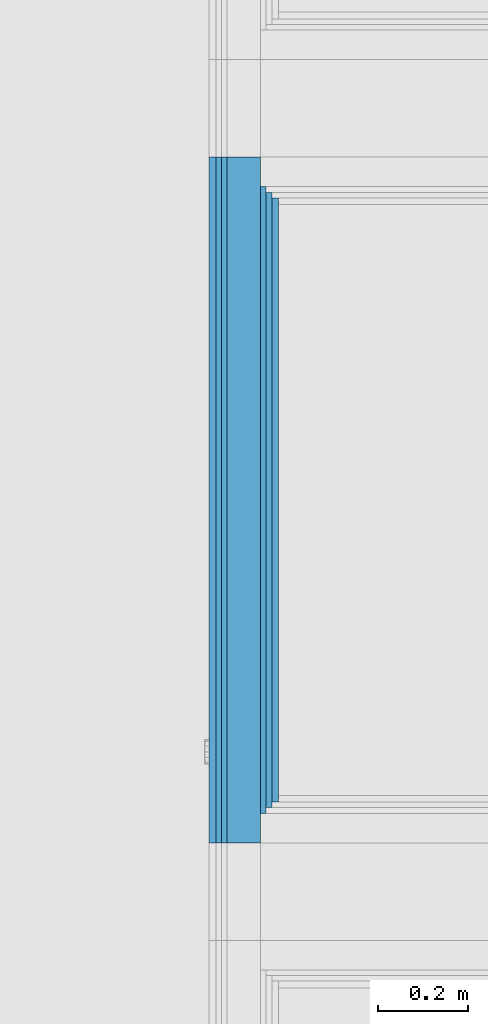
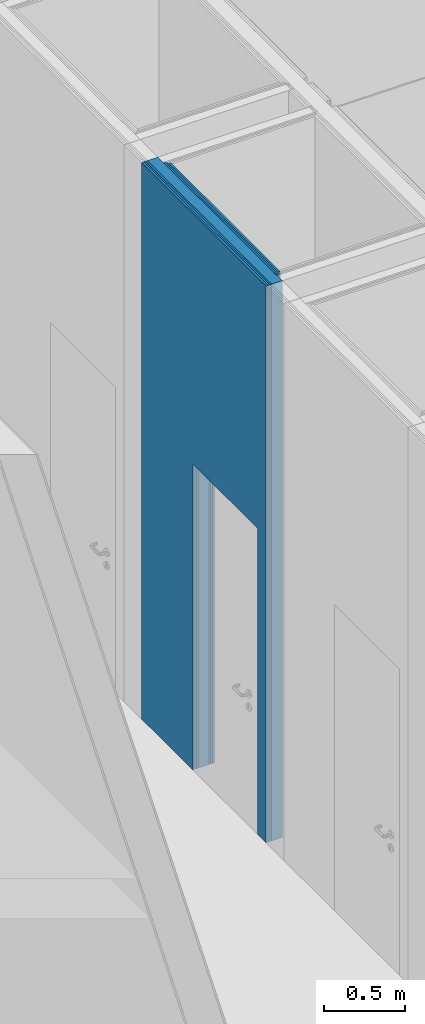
# One storey, part 63 of 260: 7 building element parts, 1 opening, 1 element without a shape of its own.
"""IFC2X3 building model written with IfcOpenShell, lengths in millimetres."""

from ifc_helpers import new_model, entity, si_unit, converted_unit, derived_unit, money_unit, direction, frame, origin_with_axes, place, context, subcontext, project, spatial, faceted_brep, material, type_object, element, aggregate, save


model = new_model("IFC2X3")

# Units and contexts
model_context = context("Model", 3, precision=0.01, world=origin_with_axes(), true_north=direction((0.0, 1.0)))
body_context = subcontext(model_context, "Body", "Model", "MODEL_VIEW")
ifc_project = project(units=[si_unit("LENGTHUNIT", "METRE", prefix="MILLI"), si_unit("AREAUNIT", "SQUARE_METRE"), si_unit("VOLUMEUNIT", "CUBIC_METRE"), converted_unit("PLANEANGLEUNIT", "DEGREE", entity("IfcPlaneAngleMeasure", 0.0174532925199), si_unit("PLANEANGLEUNIT", "RADIAN"), dimensions=[0, 0, 0, 0, 0, 0, 0]), money_unit("EUR"), converted_unit("TIMEUNIT", "Year", entity("IfcTimeMeasure", 31556926.0), si_unit("TIMEUNIT", "SECOND"), dimensions=[0, 0, 1, 0, 0, 0, 0]), si_unit("MASSUNIT", "GRAM", prefix="KILO"), si_unit("THERMODYNAMICTEMPERATUREUNIT", "DEGREE_CELSIUS"), si_unit("LUMINOUSINTENSITYUNIT", "LUMEN"), si_unit("ENERGYUNIT", "JOULE", prefix="MEGA"), derived_unit("THERMALCONDUCTANCEUNIT", [(si_unit("POWERUNIT", "WATT"), 1), (si_unit("LENGTHUNIT", "METRE"), -1), (si_unit("THERMODYNAMICTEMPERATUREUNIT", "KELVIN"), -1)]), derived_unit("SPECIFICHEATCAPACITYUNIT", [(si_unit("ENERGYUNIT", "JOULE"), 1), (si_unit("MASSUNIT", "GRAM", prefix="KILO"), -1), (si_unit("THERMODYNAMICTEMPERATUREUNIT", "KELVIN"), -1)]), derived_unit("MASSDENSITYUNIT", [(si_unit("MASSUNIT", "GRAM", prefix="KILO"), 1), (si_unit("VOLUMEUNIT", "CUBIC_METRE"), -1)])], contexts=[model_context])

# Site, building, storey
site_placement = place(None, origin_with_axes())
site = spatial("IfcSite", under=ifc_project, at=site_placement, Name="Kolde pst 67a", CompositionType="ELEMENT")
building_placement = place(site_placement, origin_with_axes())
building = spatial("IfcBuilding", under=site, at=building_placement, Name="Riigigümnaasium", CompositionType="ELEMENT")
storey_placement = place(building_placement, origin_with_axes())
storey = spatial("IfcBuildingStorey", under=building, at=storey_placement, Name="1. korrus", CompositionType="ELEMENT", Elevation=0.0)

# Wall, opening, building element parts
wall_type = type_object("IfcWallType", Name="SS-MK-7,5/1_plaaditud 155", PredefinedType="NOTDEFINED")
wall_placement = place(storey_placement, frame((66260.8875355, 20493.9999697, 0.0), z_axis=(0.0, 0.0, 1.0), x_axis=(0.0, 1.0, 0.0)))
wall = element("IfcWall", 1, at=wall_placement, inside=storey, type_object=wall_type, Name="Sisesein")
opening_placement = place(wall_placement, frame((503.500001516, 0.0, 0.0), z_axis=(0.0, 0.0, 1.0), x_axis=(1.0, 0.0, 0.0)))
element("IfcOpeningElement", 2, at=opening_placement, cuts=wall, Name="Siseuks", context=body_context, shape_type="Brep", body=[
    faceted_brep([(400.0, -155.0, 2300.0), (400.0, -155.0, 0.0), (400.0, 310.0, 0.0), (400.0, 310.0, 2300.0), (-400.0, -155.0, 2300.0), (-400.0, -155.0, 0.0), (-400.0, 310.0, 0.0), (-400.0, 310.0, 2300.0)], [[[0, 1, 2, 3]], [[0, 4, 5, 1]], [[1, 5, 6, 2]], [[3, 2, 6, 7]], [[4, 0, 3, 7]], [[5, 4, 7, 6]]]),
])
ifc_material_1 = material(Name="_VIIMISTLUSKIHT - viimistlus vastavalt SA osale")
building_element_part_1_placement = place(wall_placement, origin_with_axes())
building_element_part_1 = element("IfcBuildingElementPart", 3, at=building_element_part_1_placement, material=ifc_material_1, Name="_VIIMISTLUSKIHT - viimistlus vastavalt SA osale", context=body_context, shape_type="Brep", body=[
    faceted_brep([(103.500001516, -15.0, 0.0), (103.500001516, -15.0, 2300.0), (903.500001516, -15.0, 2300.0), (903.500001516, -15.0, 0.0), (1532.07688057, -15.0, 0.0), (1532.07688057, -15.0, 4185.0), (0.0, -15.0, 4185.0), (0.0, -15.0, 0.0), (103.500001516, 0.0, 0.0), (103.500001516, 0.0, 2300.0), (903.500001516, 0.0, 2300.0), (903.500001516, 0.0, 0.0), (1532.07688057, 0.0, 0.0), (1532.07688057, 0.0, 4185.0), (0.0, 0.0, 4185.0), (0.0, 0.0, 0.0)], [[[0, 1, 2, 3, 4, 5, 6, 7]], [[1, 0, 8, 9]], [[2, 1, 9, 10]], [[3, 2, 10, 11]], [[3, 11, 12, 4]], [[5, 4, 12, 13]], [[5, 13, 14, 6]], [[14, 15, 7, 6]], [[8, 0, 7, 15]], [[9, 8, 15, 14, 13, 12, 11, 10]]]),
])
ifc_material_2 = material(Name="_PLAATMATERJAL - kipsplaat veekindel")
building_element_part_2_placement = place(wall_placement, origin_with_axes())
building_element_part_2 = element("IfcBuildingElementPart", 4, at=building_element_part_2_placement, material=ifc_material_2, Name="_PLAATMATERJAL - kipsplaat veekindel", context=body_context, shape_type="Brep", body=[
    faceted_brep([(103.500001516, -27.5, 0.0), (103.500001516, -27.5, 2300.0), (903.500001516, -27.5, 2300.0), (903.500001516, -27.5, 0.0), (1532.07688057, -27.5, 0.0), (1532.07688057, -27.5, 4185.0), (0.0, -27.5, 4185.0), (0.0, -27.5, 0.0), (103.500001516, -15.0, 0.0), (103.500001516, -15.0, 2300.0), (903.500001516, -15.0, 2300.0), (903.500001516, -15.0, 0.0), (1532.07688057, -15.0, 0.0), (1532.07688057, -15.0, 4185.0), (0.0, -15.0, 4185.0), (0.0, -15.0, 0.0)], [[[0, 1, 2, 3, 4, 5, 6, 7]], [[1, 0, 8, 9]], [[2, 1, 9, 10]], [[3, 2, 10, 11]], [[3, 11, 12, 4]], [[5, 4, 12, 13]], [[5, 13, 14, 6]], [[14, 15, 7, 6]], [[8, 0, 7, 15]], [[9, 8, 15, 14, 13, 12, 11, 10]]]),
])
building_element_part_3_placement = place(wall_placement, origin_with_axes())
building_element_part_3 = element("IfcBuildingElementPart", 5, at=building_element_part_3_placement, material=ifc_material_2, Name="_PLAATMATERJAL - kipsplaat veekindel", context=body_context, shape_type="Brep", body=[
    faceted_brep([(103.500001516, -40.0, 0.0), (103.500001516, -40.0, 2300.0), (903.500001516, -40.0, 2300.0), (903.500001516, -40.0, 0.0), (1532.07688057, -40.0, 0.0), (1532.07688057, -40.0, 4185.0), (0.0, -40.0, 4185.0), (0.0, -40.0, 0.0), (103.500001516, -27.5, 0.0), (103.500001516, -27.5, 2300.0), (903.500001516, -27.5, 2300.0), (903.500001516, -27.5, 0.0), (1532.07688057, -27.5, 0.0), (1532.07688057, -27.5, 4185.0), (0.0, -27.5, 4185.0), (0.0, -27.5, 0.0)], [[[0, 1, 2, 3, 4, 5, 6, 7]], [[1, 0, 8, 9]], [[2, 1, 9, 10]], [[3, 2, 10, 11]], [[3, 11, 12, 4]], [[5, 4, 12, 13]], [[5, 13, 14, 6]], [[14, 15, 7, 6]], [[8, 0, 7, 15]], [[9, 8, 15, 14, 13, 12, 11, 10]]]),
])
ifc_material_3 = material(Name="_KARKASS - metallkarkass CW 75/50, mineraalvill karkassi vahel")
building_element_part_4_placement = place(wall_placement, origin_with_axes())
building_element_part_4 = element("IfcBuildingElementPart", 6, at=building_element_part_4_placement, material=ifc_material_3, Name="_KARKASS - metallkarkass CW 75/50, mineraalvill karkassi vahel", context=body_context, shape_type="Brep", body=[
    faceted_brep([(103.500001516, -115.0, 0.0), (103.500001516, -115.0, 2300.0), (903.500001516, -115.0, 2300.0), (903.500001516, -115.0, 0.0), (1532.07688057, -115.0, 0.0), (1532.07688057, -115.0, 4185.0), (0.0, -115.0, 4185.0), (0.0, -115.0, 0.0), (103.500001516, -40.0, 0.0), (103.500001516, -40.0, 2300.0), (903.500001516, -40.0, 2300.0), (903.500001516, -40.0, 0.0), (1532.07688057, -40.0, 0.0), (1532.07688057, -40.0, 4185.0), (0.0, -40.0, 4185.0), (0.0, -40.0, 0.0)], [[[0, 1, 2, 3, 4, 5, 6, 7]], [[1, 0, 8, 9]], [[2, 1, 9, 10]], [[3, 2, 10, 11]], [[3, 11, 12, 4]], [[5, 4, 12, 13]], [[5, 13, 14, 6]], [[14, 15, 7, 6]], [[8, 0, 7, 15]], [[9, 8, 15, 14, 13, 12, 11, 10]]]),
])
building_element_part_5_placement = place(wall_placement, origin_with_axes())
building_element_part_5 = element("IfcBuildingElementPart", 7, at=building_element_part_5_placement, material=ifc_material_2, Name="_PLAATMATERJAL - kipsplaat veekindel", context=body_context, shape_type="Brep", body=[
    faceted_brep([(103.500001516, -127.5, 0.0), (103.500001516, -127.5, 2300.0), (903.500001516, -127.5, 2300.0), (903.500001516, -127.5, 0.0), (1466.07688966, -127.5, 0.0), (1466.07688966, -127.5, 4185.0), (66.0000000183, -127.5, 4185.0), (66.0000000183, -127.5, 0.0), (103.500001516, -115.0, 0.0), (103.500001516, -115.0, 2300.0), (903.500001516, -115.0, 2300.0), (903.500001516, -115.0, 0.0), (1466.07688057, -115.0, 0.0), (1466.07688057, -115.0, 4185.0), (66.0, -115.0, 4185.0), (66.0, -115.0, 0.0)], [[[0, 1, 2, 3, 4, 5, 6, 7]], [[1, 0, 8, 9]], [[2, 1, 9, 10]], [[3, 2, 10, 11]], [[3, 11, 12, 4]], [[5, 4, 12, 13]], [[5, 13, 14, 6]], [[14, 15, 7, 6]], [[8, 0, 7, 15]], [[9, 8, 15, 14, 13, 12, 11, 10]]]),
])
building_element_part_6_placement = place(wall_placement, origin_with_axes())
building_element_part_6 = element("IfcBuildingElementPart", 8, at=building_element_part_6_placement, material=ifc_material_2, Name="_PLAATMATERJAL - kipsplaat veekindel", context=body_context, shape_type="Brep", body=[
    faceted_brep([(103.500001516, -140.0, 0.0), (103.500001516, -140.0, 2300.0), (903.500001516, -140.0, 2300.0), (903.500001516, -140.0, 0.0), (1453.57689875, -140.0, 0.0), (1453.57689875, -140.0, 4185.0), (78.5000000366, -140.0, 4185.0), (78.5000000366, -140.0, 0.0), (103.500001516, -127.5, 0.0), (103.500001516, -127.5, 2300.0), (903.500001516, -127.5, 2300.0), (903.500001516, -127.5, 0.0), (1453.57688966, -127.5, 0.0), (1453.57688966, -127.5, 4185.0), (78.5000000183, -127.5, 4185.0), (78.5000000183, -127.5, 0.0)], [[[0, 1, 2, 3, 4, 5, 6, 7]], [[1, 0, 8, 9]], [[2, 1, 9, 10]], [[3, 2, 10, 11]], [[3, 11, 12, 4]], [[5, 4, 12, 13]], [[5, 13, 14, 6]], [[14, 15, 7, 6]], [[8, 0, 7, 15]], [[9, 8, 15, 14, 13, 12, 11, 10]]]),
])
building_element_part_7_placement = place(wall_placement, origin_with_axes())
building_element_part_7 = element("IfcBuildingElementPart", 9, at=building_element_part_7_placement, material=ifc_material_1, Name="_VIIMISTLUSKIHT - viimistlus vastavalt SA osale", context=body_context, shape_type="Brep", body=[
    faceted_brep([(103.500001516, -155.0, 0.0), (103.500001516, -155.0, 2300.0), (903.500001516, -155.0, 2300.0), (903.500001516, -155.0, 0.0), (1441.07690966, -155.0, 0.0), (1441.07690966, -155.0, 4185.0), (91.0000000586, -155.0, 4185.0), (91.0000000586, -155.0, 0.0), (103.500001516, -140.0, 0.0), (103.500001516, -140.0, 2300.0), (903.500001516, -140.0, 2300.0), (903.500001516, -140.0, 0.0), (1441.07689875, -140.0, 0.0), (1441.07689875, -140.0, 4185.0), (91.0000000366, -140.0, 4185.0), (91.0000000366, -140.0, 0.0)], [[[0, 1, 2, 3, 4, 5, 6, 7]], [[1, 0, 8, 9]], [[2, 1, 9, 10]], [[3, 2, 10, 11]], [[3, 11, 12, 4]], [[5, 4, 12, 13]], [[5, 13, 14, 6]], [[14, 15, 7, 6]], [[8, 0, 7, 15]], [[9, 8, 15, 14, 13, 12, 11, 10]]]),
])
aggregate(wall, [building_element_part_1, building_element_part_2, building_element_part_3, building_element_part_4, building_element_part_5, building_element_part_6, building_element_part_7])

save(model, "model.ifc")
